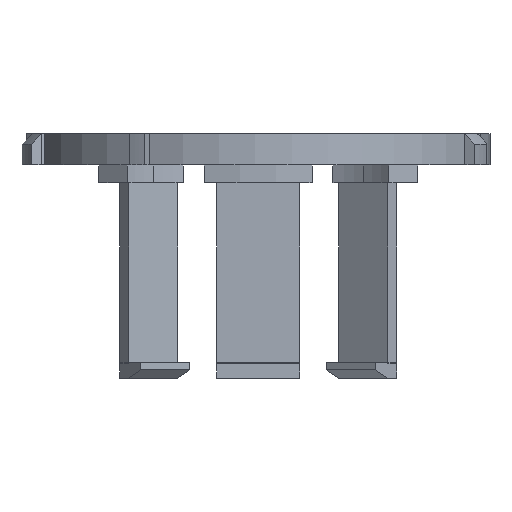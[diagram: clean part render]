
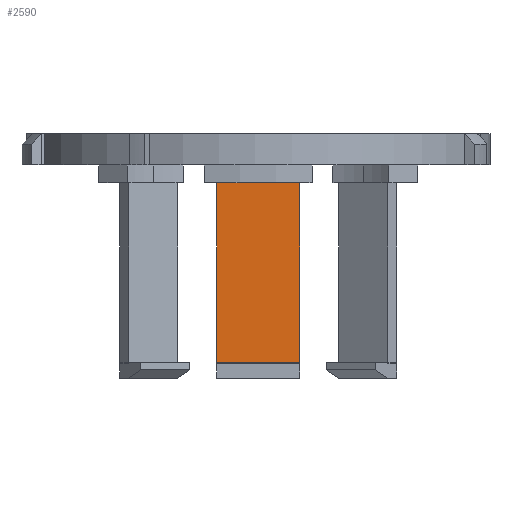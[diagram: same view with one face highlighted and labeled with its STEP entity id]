
A CAD part, left-side view. The second image highlights one B-rep face of the part: STEP entity #2590.
In plain terms, the highlighted planar face has unit normal (-1, 0, 0).
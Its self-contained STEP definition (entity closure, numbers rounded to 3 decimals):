
#2267 = VERTEX_POINT('',#2268);
#2268 = CARTESIAN_POINT('',(-17.8,4.,146.6));
#2274 = EDGE_CURVE('',#2267,#2275,#2277,.T.);
#2275 = VERTEX_POINT('',#2276);
#2276 = CARTESIAN_POINT('',(-17.8,-4.,146.6));
#2277 = LINE('',#2278,#2279);
#2278 = CARTESIAN_POINT('',(-17.8,2.,146.6));
#2279 = VECTOR('',#2280,1.);
#2280 = DIRECTION('',(0.,-1.,0.));
#2570 = EDGE_CURVE('',#2571,#2275,#2573,.T.);
#2571 = VERTEX_POINT('',#2572);
#2572 = CARTESIAN_POINT('',(-17.8,-4.,129.3));
#2573 = LINE('',#2574,#2575);
#2574 = CARTESIAN_POINT('',(-17.8,-4.,129.2));
#2575 = VECTOR('',#2576,1.);
#2576 = DIRECTION('',(0.,0.,1.));
#2590 = ADVANCED_FACE('',(#2591),#2609,.T.);
#2591 = FACE_BOUND('',#2592,.T.);
#2592 = EDGE_LOOP('',(#2593,#2601,#2607,#2608));
#2593 = ORIENTED_EDGE('',*,*,#2594,.F.);
#2594 = EDGE_CURVE('',#2595,#2267,#2597,.T.);
#2595 = VERTEX_POINT('',#2596);
#2596 = CARTESIAN_POINT('',(-17.8,4.,129.3));
#2597 = LINE('',#2598,#2599);
#2598 = CARTESIAN_POINT('',(-17.8,4.,129.2));
#2599 = VECTOR('',#2600,1.);
#2600 = DIRECTION('',(0.,0.,1.));
#2601 = ORIENTED_EDGE('',*,*,#2602,.T.);
#2602 = EDGE_CURVE('',#2595,#2571,#2603,.T.);
#2603 = LINE('',#2604,#2605);
#2604 = CARTESIAN_POINT('',(-17.8,4.,129.3));
#2605 = VECTOR('',#2606,1.);
#2606 = DIRECTION('',(0.,-1.,0.));
#2607 = ORIENTED_EDGE('',*,*,#2570,.T.);
#2608 = ORIENTED_EDGE('',*,*,#2274,.F.);
#2609 = PLANE('',#2610);
#2610 = AXIS2_PLACEMENT_3D('',#2611,#2612,#2613);
#2611 = CARTESIAN_POINT('',(-17.8,4.,129.2));
#2612 = DIRECTION('',(-1.,0.,0.));
#2613 = DIRECTION('',(0.,0.,1.));
